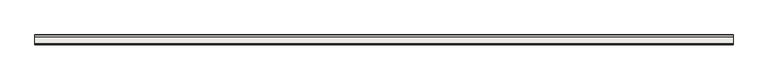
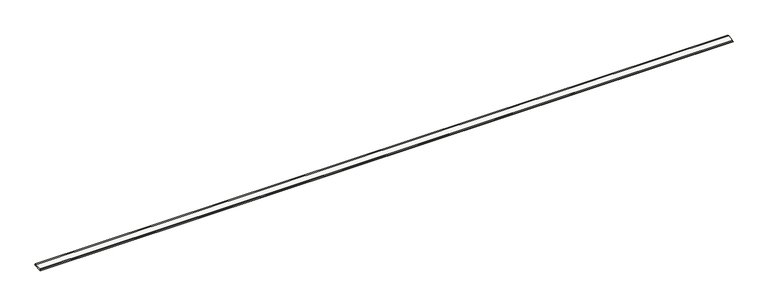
"""IFC4 building model written with IfcOpenShell, lengths in millimetres: slab geometry, ROSA GRES_I25_Inclinación : Pieza I25_Pietro_White_Anti-Slip."""

from ifc_helpers import new_model, si_unit, point, frame, frame_2d, origin, place, context, project, spatial, polyline, circle_curve, trimmed, segment, composite_curve, outline, extrude, source, transform, mapped, element, save


def slab_401e2c3a(model_context):
    return source(origin(), model_context, "Body", "SweptSolid", [
        extrude(outline(composite_curve([segment(polyline([(239.502845, 41.5733833), (248.1421086, 20.183002), (0.0, 0.0), (5.0466881, 22.4539349)]), True, "CONTINUOUS"), segment(trimmed(circle_curve(frame_2d((142.3596866, -685.9166532)), 721.556477), [point((5.0466881, 22.4539349))], [point((40.5673305, 28.4236479))], False, "CARTESIAN"), True, "CONTINUOUS"), segment(polyline([(40.5673305, 28.4236479), (203.9346385, 41.7113673)]), True, "CONTINUOUS"), segment(trimmed(circle_curve(frame_2d((218.9203921, -679.689476)), 721.556477), [point((203.9346385, 41.7113673))], [point((239.502845, 41.5733833))], False, "CARTESIAN"), True, "CONTINUOUS")], self_intersect=False)), frame((0.0, 0.0, 0.0), z_axis=(1.0, 0.0, 0.0), x_axis=(0.0, 1.0, 0.0)), (0.0, 0.0, 1.0), 17800.0),
    ])


if __name__ == "__main__":
    model = new_model("IFC4")
    model_context = context("Model", 3, world=origin())
    ifc_project = project(units=[si_unit("LENGTHUNIT", "METRE", prefix="MILLI")], contexts=[model_context])
    site = spatial("IfcSite", under=ifc_project)
    building = spatial("IfcBuilding", under=site)
    placement = place(None, origin())
    slab_shape = slab_401e2c3a(model_context)
    element("IfcSlab", 1, ObjectType="ROSA GRES_I25_Inclinación : Pieza I25_Pietro_White_Anti-Slip", at=placement, inside=building, context=model_context, shape_type="MappedRepresentation", body=[
        mapped(slab_shape, transform((0.0, 0.0, 0.0), x_axis=(1.0, 0.0, 0.0), y_axis=(0.0, 1.0, 0.0), z_axis=(0.0, 0.0, 1.0))),
    ])
    save(model, "model.ifc")
